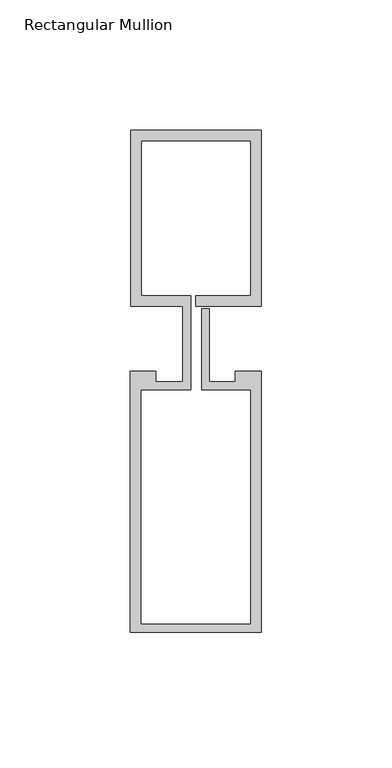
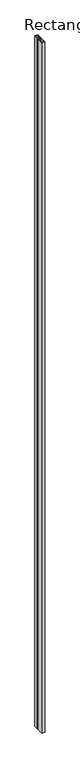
"""IFC4 building model written with IfcOpenShell, lengths in millimetres: member geometry, Rectangular Mullion : Reynaers_CW-50_Mullion-Transom_Horizontal_67.4mm_Facecap-02D."""

import ifcopenshell
import ifcopenshell.guid

model = None  # the IFC model being written
_history = None  # IfcOwnerHistory: only IFC2X3 demands one
_inside = {}  # id of a spatial element -> (the spatial element, [elements in it])
_under = {}  # id of a project, library or spatial element -> (it, [spatial elements below it])
_declared = {}  # id of a project -> (the project, [libraries it declares])
_typed = {}  # id of a type object -> (the type object, [elements of that type])
_made_of = {}  # id of a material, layer set ... -> (it, [elements and type objects made of it])


def new_model(schema):
    """Start an empty IFC model of exactly this schema.

    Asked for "IFC4X3", IfcOpenShell would pick the latest addendum, in which some entities
    have other attributes; the version numbers below select the first issue.
    IFC2X3 requires an IfcOwnerHistory on every rooted entity: one is made here for all.
    """
    global model, _history
    if schema == "IFC4X3":
        model = ifcopenshell.file(schema_version=(4, 3, 0, 0))
    else:
        model = ifcopenshell.file(schema=schema)
    _inside.clear()
    _under.clear()
    _declared.clear()
    _typed.clear()
    _made_of.clear()
    _history = None
    if model.schema == "IFC2X3":
        org = make("IfcOrganization", Name="unknown")
        user = make(
            "IfcPersonAndOrganization",
            ThePerson=make("IfcPerson", FamilyName="unknown"),
            TheOrganization=org,
        )
        app = make(
            "IfcApplication",
            ApplicationDeveloper=org,
            Version="unknown",
            ApplicationFullName="unknown",
            ApplicationIdentifier="unknown",
        )
        _history = make(
            "IfcOwnerHistory",
            OwningUser=user,
            OwningApplication=app,
            ChangeAction="ADDED",
            CreationDate=0,
        )
    return model


def make(cls, **values):
    """One entity of the class cls with the attributes given. An attribute that is None is left unset."""
    return model.create_entity(
        cls, **{name: value for name, value in values.items() if value is not None}
    )


def rooted(cls, **values):
    """An entity with a GlobalId (a new one), such as an element, a storey or a relation."""
    return make(cls, GlobalId=ifcopenshell.guid.new(), OwnerHistory=_history, **values)


def si_unit(unit_type, name, prefix=None):
    """IfcSIUnit, for example si_unit("LENGTHUNIT", "METRE", prefix="MILLI")."""
    return make("IfcSIUnit", UnitType=unit_type, Prefix=prefix, Name=name)


def assignment(units):
    """IfcUnitAssignment: the units of a project."""
    return None if units is None else make("IfcUnitAssignment", Units=units)


def point(xyz):
    """IfcCartesianPoint."""
    return None if xyz is None else make("IfcCartesianPoint", Coordinates=xyz)


def direction(xyz):
    """IfcDirection."""
    return None if xyz is None else make("IfcDirection", DirectionRatios=xyz)


def frame(location, z_axis=None, x_axis=None):
    """IfcAxis2Placement3D, a coordinate frame: its origin and axes. An axis left out is left unset."""
    return make(
        "IfcAxis2Placement3D",
        Location=point(location),
        Axis=direction(z_axis),
        RefDirection=direction(x_axis),
    )


def origin():
    """The frame at (0, 0, 0) with its axes left unset."""
    return frame((0.0, 0.0, 0.0))


def place(relative_to, where):
    """IfcLocalPlacement: puts the frame where relative to a parent placement (None: the world)."""
    return make(
        "IfcLocalPlacement", PlacementRelTo=relative_to, RelativePlacement=where
    )


def context(
    kind, dimensions, precision=None, world=None, true_north=None, identifier=None
):
    """IfcGeometricRepresentationContext, for example the 3D "Model" context."""
    return make(
        "IfcGeometricRepresentationContext",
        ContextIdentifier=identifier,
        ContextType=kind,
        CoordinateSpaceDimension=dimensions,
        Precision=precision,
        WorldCoordinateSystem=world,
        TrueNorth=true_north,
    )


def project(units=None, contexts=None):
    """IfcProject with its units and contexts."""
    return rooted(
        "IfcProject",
        Name="project",
        RepresentationContexts=contexts,
        UnitsInContext=assignment(units),
    )


def spatial(cls, under=None, at=None, **own):
    """A site, building, storey or space (cls), placed at a placement, below another one or the project."""
    s = rooted(cls, ObjectPlacement=at, **own)
    if under is not None:
        _under.setdefault(under.id(), (under, []))[1].append(s)
    return s


def polyline(points):
    """IfcPolyline through the points."""
    return make("IfcPolyline", Points=[point(p) for p in points])


def outline(outer, holes=None, kind="AREA"):
    """IfcArbitraryClosedProfileDef: a profile drawn as a closed curve; with holes, ...WithVoids."""
    if holes is None:
        return make("IfcArbitraryClosedProfileDef", ProfileType=kind, OuterCurve=outer)
    return make(
        "IfcArbitraryProfileDefWithVoids",
        ProfileType=kind,
        OuterCurve=outer,
        InnerCurves=holes,
    )


def extrude(swept, where, along, depth):
    """IfcExtrudedAreaSolid: the profile swept, set in the frame where, extruded along a direction by depth."""
    return make(
        "IfcExtrudedAreaSolid",
        SweptArea=swept,
        Position=where,
        ExtrudedDirection=direction(along),
        Depth=depth,
    )


def shape(context_of_items, identifier, shape_type, items):
    """IfcShapeRepresentation: the items that make up one representation, for example the "Body"."""
    return make(
        "IfcShapeRepresentation",
        ContextOfItems=context_of_items,
        RepresentationIdentifier=identifier,
        RepresentationType=shape_type,
        Items=items,
    )


def source(mapping_origin, context_of_items, identifier, shape_type, items):
    """IfcRepresentationMap: a shape defined once, which mapped items show again and again."""
    return make(
        "IfcRepresentationMap",
        MappingOrigin=mapping_origin,
        MappedRepresentation=shape(context_of_items, identifier, shape_type, items),
    )


def transform(
    local_origin,
    x_axis=None,
    y_axis=None,
    z_axis=None,
    scale=None,
    scale2=None,
    scale3=None,
    uniform=True,
):
    """IfcCartesianTransformationOperator3D, or its non-uniform kind. x_axis, y_axis, z_axis: its Axis1, 2, 3."""
    if uniform:
        return make(
            "IfcCartesianTransformationOperator3D",
            Axis1=direction(x_axis),
            Axis2=direction(y_axis),
            LocalOrigin=point(local_origin),
            Scale=scale,
            Axis3=direction(z_axis),
        )
    return make(
        "IfcCartesianTransformationOperator3DnonUniform",
        Axis1=direction(x_axis),
        Axis2=direction(y_axis),
        LocalOrigin=point(local_origin),
        Scale=scale,
        Axis3=direction(z_axis),
        Scale2=scale2,
        Scale3=scale3,
    )


def mapped(mapping_source, mapping_target):
    """IfcMappedItem: shows the shape of a source again, moved by a transform."""
    return make(
        "IfcMappedItem", MappingSource=mapping_source, MappingTarget=mapping_target
    )


def made_of(thing, what):
    """Note that an element or type object is made of a material, layer set ...; save() writes the relation."""
    if what is not None:
        _made_of.setdefault(what.id(), (what, []))[1].append(thing)
    return thing


def element(
    cls,
    number,
    at=None,
    inside=None,
    cuts=None,
    type_object=None,
    material=None,
    context=None,
    identifier="Body",
    shape_type=None,
    held_by="IfcProductDefinitionShape",
    body=None,
    shapes=None,
    **own,
):
    """One element of the class cls, such as IfcWall. Its Tag is "e" and its number.

    at: its placement. inside: the storey or other place that contains it. cuts: it is an
    opening in that element (IfcRelVoidsElement). A single representation is given by context,
    identifier, shape_type and body (its items); several are given by shapes. held_by: the class
    of the entity that holds the representations. save() writes the other relations.
    """
    e = rooted(cls, Tag="e%d" % number, ObjectPlacement=at, **own)
    if body is not None:
        shapes = [shape(context, identifier, shape_type, body)]
    if shapes is not None:
        e.Representation = make(held_by, Representations=shapes)
    if inside is not None:
        _inside.setdefault(inside.id(), (inside, []))[1].append(e)
    if cuts is not None:
        rooted(
            "IfcRelVoidsElement", RelatingBuildingElement=cuts, RelatedOpeningElement=e
        )
    if type_object is not None:
        _typed.setdefault(type_object.id(), (type_object, []))[1].append(e)
    return made_of(e, material)


def aggregate(whole, parts):
    """IfcRelAggregates: a whole, such as a stair, and the parts it consists of."""
    return rooted("IfcRelAggregates", RelatingObject=whole, RelatedObjects=parts)


def save(model, path):
    """Write the relations noted so far, then the file.

    IfcRelAggregates (storeys below a building ...), IfcRelContainedInSpatialStructure (elements
    in a storey), IfcRelDefinesByType, IfcRelAssociatesMaterial and IfcRelDeclares: one each for
    every whole, place, type object, material and project.
    """
    for whole, parts in _under.values():
        aggregate(whole, parts)
    for where, things in _inside.values():
        rooted(
            "IfcRelContainedInSpatialStructure",
            RelatedElements=things,
            RelatingStructure=where,
        )
    for kind, things in _typed.values():
        rooted("IfcRelDefinesByType", RelatedObjects=things, RelatingType=kind)
    for what, things in _made_of.values():
        rooted("IfcRelAssociatesMaterial", RelatedObjects=things, RelatingMaterial=what)
    for by, libraries in _declared.values():
        rooted("IfcRelDeclares", RelatingContext=by, RelatedDefinitions=libraries)
    model.write(path)


def rectangular_mullion_0ad46ab6(model_context):
    return source(origin(), model_context, "Body", "SweptSolid", [
        extrude(outline(polyline([(-24.8004059, 79.9), (25.1995941, 79.9), (25.1995941, 12.5), (0.0, 12.5), (0.0, 16.5), (21.1995941, 16.5), (21.1995941, 75.9), (-20.8004059, 75.9), (-20.8004059, 16.5), (-1.9004059, 16.5), (-1.9004059, -19.5), (-20.994845, -19.5), (-20.994845, -109.4191338), (21.1995941, -109.4191338), (21.1995941, -19.5), (2.2995941, -19.5), (2.2995941, 11.5), (5.2995941, 11.5), (5.2995941, -16.5), (15.2996495, -16.5), (15.2996495, -12.5), (25.1995941, -12.5), (25.1995941, -112.5), (-24.994845, -112.5), (-24.994845, -12.5), (-15.2996495, -12.5), (-15.2996495, -16.5), (-4.9004059, -16.5), (-4.9004059, 12.5), (-24.8004059, 12.5), (-24.8004059, 79.9)])), frame((0.0, 0.0, -12000.0), z_axis=(0.0, 0.0, 1.0), x_axis=(1.0, 0.0, 0.0)), (0.0, 0.0, 1.0), 12000.0),
    ])


if __name__ == "__main__":
    model = new_model("IFC4")
    model_context = context("Model", 3, world=origin())
    ifc_project = project(units=[si_unit("LENGTHUNIT", "METRE", prefix="MILLI")], contexts=[model_context])
    site = spatial("IfcSite", under=ifc_project)
    building = spatial("IfcBuilding", under=site)
    placement = place(None, origin())
    rectangular_mullion_shape = rectangular_mullion_0ad46ab6(model_context)
    element("IfcMember", 1, ObjectType="Rectangular Mullion : Reynaers_CW-50_Mullion-Transom_Horizontal_67.4mm_Facecap-02D", at=placement, inside=building, context=model_context, shape_type="MappedRepresentation", body=[
        mapped(rectangular_mullion_shape, transform((0.0, 0.0, 0.0), x_axis=(1.0, 0.0, 0.0), y_axis=(0.0, 1.0, 0.0), z_axis=(0.0, 0.0, 1.0))),
    ])
    save(model, "model.ifc")
